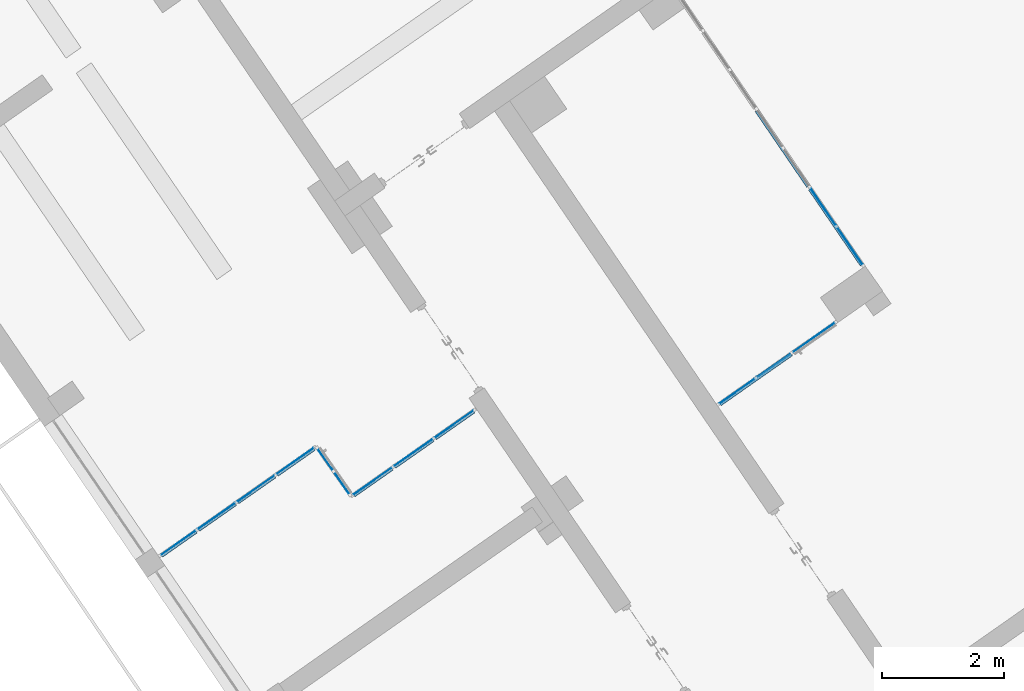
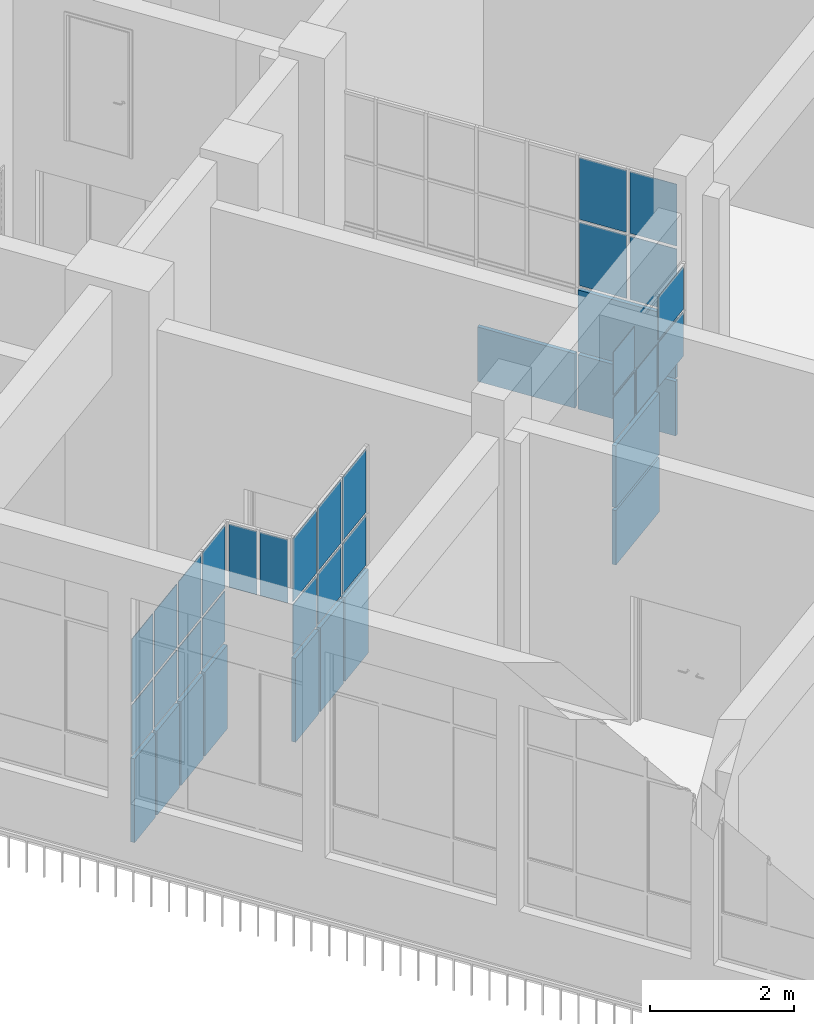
# One storey, part 49 of 157: 37 plates, 5 elements without a shape of their own.
"""IFC2X3 building model written with IfcOpenShell, lengths in millimetres."""

from ifc_helpers import new_model, entity, si_unit, converted_unit, derived_unit, direction, frame, frame_2d, origin, origin_2d_with_axis, place, context, subcontext, project, spatial, rectangle, extrude, source, transform, mapped, material, type_object, type_shapes, element, aggregate, save


model = new_model("IFC2X3")

# Units and contexts
model_context = context("Model", 3, precision=0.01, world=origin(), true_north=direction((6.123031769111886e-17, 1.0)))
body_context = subcontext(model_context, "Body", "Model", "MODEL_VIEW")
ifc_project = project(units=[si_unit("LENGTHUNIT", "METRE", prefix="MILLI"), si_unit("AREAUNIT", "SQUARE_METRE"), si_unit("VOLUMEUNIT", "CUBIC_METRE"), converted_unit("PLANEANGLEUNIT", "DEGREE", entity("IfcRatioMeasure", 0.017453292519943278), si_unit("PLANEANGLEUNIT", "RADIAN"), dimensions=[0, 0, 0, 0, 0, 0, 0]), si_unit("MASSUNIT", "GRAM", prefix="KILO"), derived_unit("MASSDENSITYUNIT", [(si_unit("MASSUNIT", "GRAM", prefix="KILO"), 1), (si_unit("LENGTHUNIT", "METRE"), -3)]), derived_unit("MOMENTOFINERTIAUNIT", [(si_unit("LENGTHUNIT", "METRE"), 4)]), si_unit("TIMEUNIT", "SECOND"), si_unit("FREQUENCYUNIT", "HERTZ"), si_unit("THERMODYNAMICTEMPERATUREUNIT", "DEGREE_CELSIUS"), derived_unit("THERMALTRANSMITTANCEUNIT", [(si_unit("MASSUNIT", "GRAM", prefix="KILO"), 1), (si_unit("THERMODYNAMICTEMPERATUREUNIT", "KELVIN"), -1), (si_unit("TIMEUNIT", "SECOND"), -3)]), derived_unit("THERMALCONDUCTANCEUNIT", [(si_unit("MASSUNIT", "GRAM", prefix="KILO"), 1), (si_unit("LENGTHUNIT", "METRE"), 1), (si_unit("THERMODYNAMICTEMPERATUREUNIT", "KELVIN"), -1), (si_unit("TIMEUNIT", "SECOND"), -3)]), derived_unit("VOLUMETRICFLOWRATEUNIT", [(si_unit("LENGTHUNIT", "METRE"), 3), (si_unit("TIMEUNIT", "SECOND"), -1)]), derived_unit("MASSFLOWRATEUNIT", [(si_unit("MASSUNIT", "GRAM", prefix="KILO"), 1), (si_unit("TIMEUNIT", "SECOND"), -1)]), derived_unit("ROTATIONALFREQUENCYUNIT", [(si_unit("TIMEUNIT", "SECOND"), -1)]), si_unit("ELECTRICCURRENTUNIT", "AMPERE"), si_unit("ELECTRICVOLTAGEUNIT", "VOLT"), si_unit("POWERUNIT", "WATT"), converted_unit("FORCEUNIT", "KIP", entity("IfcRatioMeasure", 2.088543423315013e-05), si_unit("FORCEUNIT", "NEWTON"), dimensions=[1, 1, -2, 0, 0, 0, 0]), si_unit("ILLUMINANCEUNIT", "LUX"), si_unit("LUMINOUSFLUXUNIT", "LUMEN"), si_unit("LUMINOUSINTENSITYUNIT", "CANDELA"), derived_unit("USERDEFINED", [(si_unit("MASSUNIT", "GRAM", prefix="KILO"), -1), (si_unit("LENGTHUNIT", "METRE"), -2), (si_unit("TIMEUNIT", "SECOND"), 3), (si_unit("LUMINOUSFLUXUNIT", "LUMEN"), 1)]), derived_unit("USERDEFINED", [(si_unit("MASSUNIT", "GRAM", prefix="KILO"), 1), (si_unit("LENGTHUNIT", "METRE"), 3), (si_unit("TIMEUNIT", "SECOND"), -3), (si_unit("ELECTRICCURRENTUNIT", "AMPERE"), -2)]), derived_unit("USERDEFINED", [(si_unit("LENGTHUNIT", "METRE"), 2), (si_unit("TIMEUNIT", "SECOND"), -2)]), derived_unit("SOUNDPOWERUNIT", [(si_unit("MASSUNIT", "GRAM", prefix="KILO"), 1), (si_unit("LENGTHUNIT", "METRE"), 2), (si_unit("TIMEUNIT", "SECOND"), -3)]), derived_unit("SOUNDPRESSUREUNIT", [(si_unit("MASSUNIT", "GRAM", prefix="KILO"), 1), (si_unit("LENGTHUNIT", "METRE"), -1), (si_unit("TIMEUNIT", "SECOND"), -2)]), derived_unit("LINEARVELOCITYUNIT", [(si_unit("LENGTHUNIT", "METRE"), 1), (si_unit("TIMEUNIT", "SECOND"), -1)]), si_unit("PRESSUREUNIT", "PASCAL"), derived_unit("USERDEFINED", [(si_unit("LENGTHUNIT", "METRE"), -2), (si_unit("MASSUNIT", "GRAM", prefix="KILO"), 1), (si_unit("TIMEUNIT", "SECOND"), -2)]), derived_unit("LINEARFORCEUNIT", [(si_unit("MASSUNIT", "GRAM", prefix="KILO"), 1), (si_unit("LENGTHUNIT", "METRE"), 1), (si_unit("TIMEUNIT", "SECOND"), -2), (si_unit("LENGTHUNIT", "METRE"), -1)]), derived_unit("PLANARFORCEUNIT", [(si_unit("MASSUNIT", "GRAM", prefix="KILO"), 1), (si_unit("LENGTHUNIT", "METRE"), 1), (si_unit("TIMEUNIT", "SECOND"), -2), (si_unit("LENGTHUNIT", "METRE"), -2)]), derived_unit("SPECIFICHEATCAPACITYUNIT", [(si_unit("LENGTHUNIT", "METRE"), 2), (si_unit("TIMEUNIT", "SECOND"), -2), (si_unit("THERMODYNAMICTEMPERATUREUNIT", "KELVIN"), -1)]), derived_unit("VAPORPERMEABILITYUNIT", [(si_unit("TIMEUNIT", "SECOND"), 1), (si_unit("LENGTHUNIT", "METRE"), -1)]), derived_unit("DYNAMICVISCOSITYUNIT", [(si_unit("MASSUNIT", "GRAM", prefix="KILO"), 1), (si_unit("LENGTHUNIT", "METRE"), -1), (si_unit("TIMEUNIT", "SECOND"), -1)]), derived_unit("THERMALEXPANSIONCOEFFICIENTUNIT", [(si_unit("THERMODYNAMICTEMPERATUREUNIT", "KELVIN"), -1)])], contexts=[model_context])

# Site, building, storey
site_placement = place(None, frame((0.0, 0.0, 0.0), z_axis=(0.0, 0.0, 1.0), x_axis=(0.8191520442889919, 0.5735764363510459, 0.0)))
site = spatial("IfcSite", under=ifc_project, at=site_placement, Name="Default", CompositionType="ELEMENT")
building_placement = place(site_placement, origin())
building = spatial("IfcBuilding", under=site, at=building_placement, CompositionType="ELEMENT")
storey_placement = place(building_placement, origin())
storey = spatial("IfcBuildingStorey", under=building, at=storey_placement, Name="1.EG +0.00", CompositionType="ELEMENT", Elevation=-4.331468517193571e-12)

# Curtain wall, plates
curtain_wall_type = type_object("IfcCurtainWallType", Name="Curtain Wall:Curtain_Wall_CJC_Int5", PredefinedType="NOTDEFINED")
curtain_wall_1_placement = place(storey_placement, origin())
curtain_wall_1 = element("IfcCurtainWall", 1, at=curtain_wall_1_placement, inside=storey, type_object=curtain_wall_type, Name="Curtain Wall:Curtain_Wall_CJC_Int5", ObjectType="Curtain Wall:Curtain_Wall_CJC_Int5")
ifc_material_1 = material(Name="Default")
plate_type_1 = type_object("IfcPlateType", Name="System Panel:Solid", PredefinedType="CURTAIN_PANEL", material=ifc_material_1)
shared_shape_1 = source(origin(), body_context, "Body", "SweptSolid", [
    extrude(rectangle(XDim=925.0000000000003, YDim=1507.2679333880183, at=frame_2d((0.0, -5.0799769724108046e-08), x_axis=(1.0, 0.0))), frame((5.078863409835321e-08, -19.049999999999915, 462.50000000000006), z_axis=(0.0, 1.0, 0.0), x_axis=(0.0, 0.0, 1.0)), (0.0, 0.0, 1.0), 63.5),
])
type_shapes(plate_type_1, [shared_shape_1])
plate_1_placement = place(curtain_wall_1_placement, frame((-209945.4109583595, 159049.92892178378, 50.0), z_axis=(0.0, 0.0, 1.0), x_axis=(0.012616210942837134, 0.9999204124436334, 0.0)))
plate_1 = element("IfcPlate", 2, at=plate_1_placement, type_object=plate_type_1, material=ifc_material_1, Name="System Panel:Solid", ObjectType="System Panel:Solid", context=body_context, shape_type="MappedRepresentation", body=[
    mapped(shared_shape_1, transform((0.0, 0.0, 0.0), scale=1.0)),
])
plate_2_placement = place(curtain_wall_1_placement, frame((-209925.7641376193, 160607.07291586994, 50.0), z_axis=(0.0, 0.0, 1.0), x_axis=(0.012616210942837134, 0.9999204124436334, 0.0)))
plate_2 = element("IfcPlate", 3, at=plate_2_placement, type_object=plate_type_1, material=ifc_material_1, Name="System Panel:Solid", ObjectType="System Panel:Solid", context=body_context, shape_type="MappedRepresentation", body=[
    mapped(shared_shape_1, transform((0.0, 0.0, 0.0), scale=1.0)),
])
plate_type_2 = type_object("IfcPlateType", Name="System Panel:Solid", PredefinedType="CURTAIN_PANEL", material=ifc_material_1)
shared_shape_2 = source(origin(), body_context, "Body", "SweptSolid", [
    extrude(rectangle(XDim=1049.9999999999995, YDim=1507.2679333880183, at=frame_2d((1.1368683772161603e-13, -5.0799769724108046e-08), x_axis=(1.0, 0.0))), frame((5.078863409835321e-08, -19.049999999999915, 525.0), z_axis=(0.0, 1.0, 0.0), x_axis=(0.0, 0.0, 1.0)), (0.0, 0.0, 1.0), 63.5),
])
type_shapes(plate_type_2, [shared_shape_2])
plate_3_placement = place(curtain_wall_1_placement, frame((-209945.4109583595, 159049.92892178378, 1025.0), z_axis=(0.0, 0.0, 1.0), x_axis=(0.012616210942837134, 0.9999204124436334, 0.0)))
plate_3 = element("IfcPlate", 4, at=plate_3_placement, type_object=plate_type_2, material=ifc_material_1, Name="System Panel:Solid", ObjectType="System Panel:Solid", context=body_context, shape_type="MappedRepresentation", body=[
    mapped(shared_shape_2, transform((0.0, 0.0, 0.0), scale=1.0)),
])
ifc_material_2 = material(Name="Glass")
plate_type_3 = type_object("IfcPlateType", Name="System Panel:Glazed_CJC", PredefinedType="CURTAIN_PANEL", material=ifc_material_2)
shared_shape_3 = source(origin(), body_context, "Body", "SweptSolid", [
    extrude(rectangle(XDim=10.0, YDim=728.6339668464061, at=frame_2d((0.0, 1.7905676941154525e-12), x_axis=(1.0, 0.0))), frame((0.0, 0.0, 0.0), z_axis=(0.0, 0.0, 1.0), x_axis=(0.0, 1.0, 0.0)), (0.0, 0.0, 1.0), 1075.0000000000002),
])
type_shapes(plate_type_3, [shared_shape_3])
plate_4_placement = place(curtain_wall_1_placement, frame((-209950.32266354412, 158660.64292330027, 2125.0), z_axis=(0.0, 0.0, 1.0), x_axis=(0.012616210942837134, 0.9999204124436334, 0.0)))
plate_4 = element("IfcPlate", 5, at=plate_4_placement, type_object=plate_type_3, material=ifc_material_2, Name="System Panel:Glazed_CJC", ObjectType="System Panel:Glazed_CJC", context=body_context, shape_type="MappedRepresentation", body=[
    mapped(shared_shape_3, transform((0.0, 0.0, 0.0), scale=1.0)),
])
plate_5_placement = place(curtain_wall_1_placement, frame((-209940.49925317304, 159439.21492041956, 2125.0), z_axis=(0.0, 0.0, 1.0), x_axis=(0.012616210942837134, 0.9999204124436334, 0.0)))
plate_5 = element("IfcPlate", 6, at=plate_5_placement, type_object=plate_type_3, material=ifc_material_2, Name="System Panel:Glazed_CJC", ObjectType="System Panel:Glazed_CJC", context=body_context, shape_type="MappedRepresentation", body=[
    mapped(shared_shape_3, transform((0.0, 0.0, 0.0), scale=1.0)),
])
plate_type_4 = type_object("IfcPlateType", Name="System Panel:Glazed_CJC", PredefinedType="CURTAIN_PANEL", material=ifc_material_2)
shared_shape_4 = source(origin(), body_context, "Body", "SweptSolid", [
    extrude(rectangle(XDim=10.0, YDim=728.6339668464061, at=frame_2d((0.0, 1.7905676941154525e-12), x_axis=(1.0, 0.0))), frame((0.0, 0.0, 0.0), z_axis=(0.0, 0.0, 1.0), x_axis=(0.0, 1.0, 0.0)), (0.0, 0.0, 1.0), 1050.0000000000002),
])
type_shapes(plate_type_4, [shared_shape_4])
plate_6_placement = place(curtain_wall_1_placement, frame((-209950.32266354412, 158660.64292330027, 3250.0), z_axis=(0.0, 0.0, 1.0), x_axis=(0.012616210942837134, 0.9999204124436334, 0.0)))
plate_6 = element("IfcPlate", 7, at=plate_6_placement, type_object=plate_type_4, material=ifc_material_2, Name="System Panel:Glazed_CJC", ObjectType="System Panel:Glazed_CJC", context=body_context, shape_type="MappedRepresentation", body=[
    mapped(shared_shape_4, transform((0.0, 0.0, 0.0), scale=1.0)),
])
plate_7_placement = place(curtain_wall_1_placement, frame((-209940.49925317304, 159439.21492041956, 3250.0), z_axis=(0.0, 0.0, 1.0), x_axis=(0.012616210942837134, 0.9999204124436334, 0.0)))
plate_7 = element("IfcPlate", 8, at=plate_7_placement, type_object=plate_type_4, material=ifc_material_2, Name="System Panel:Glazed_CJC", ObjectType="System Panel:Glazed_CJC", context=body_context, shape_type="MappedRepresentation", body=[
    mapped(shared_shape_4, transform((0.0, 0.0, 0.0), scale=1.0)),
])
aggregate(curtain_wall_1, [plate_1, plate_2, plate_3, plate_4, plate_5, plate_6, plate_7])

curtain_wall_2_placement = place(storey_placement, origin())
curtain_wall_2 = element("IfcCurtainWall", 9, at=curtain_wall_2_placement, inside=storey, type_object=curtain_wall_type, Name="Curtain Wall:Curtain_Wall_CJC_Int5", ObjectType="Curtain Wall:Curtain_Wall_CJC_Int5")
plate_type_5 = type_object("IfcPlateType", Name="System Panel:Solid", PredefinedType="CURTAIN_PANEL", material=ifc_material_1)
shared_shape_5 = source(origin(), body_context, "Body", "SweptSolid", [
    extrude(rectangle(XDim=925.0000000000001, YDim=1428.107482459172, at=frame_2d((0.0, 3.9940287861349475), x_axis=(1.0, 0.0))), frame((-3.994028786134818, -19.05, 462.50000000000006), z_axis=(0.0, 1.0, 0.0), x_axis=(0.0, 0.0, 1.0)), (0.0, 0.0, 1.0), 63.5),
])
type_shapes(plate_type_5, [shared_shape_5])
plate_8_placement = place(curtain_wall_2_placement, frame((-212472.8501703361, 157771.3589143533, 50.0), z_axis=(0.0, 0.0, 1.0), x_axis=(-1.0, 0.0, 0.0)))
plate_8 = element("IfcPlate", 10, at=plate_8_placement, type_object=plate_type_5, material=ifc_material_1, Name="System Panel:Solid", ObjectType="System Panel:Solid", context=body_context, shape_type="MappedRepresentation", body=[
    mapped(shared_shape_5, transform((0.0, 0.0, 0.0), scale=1.0)),
])
plate_type_6 = type_object("IfcPlateType", Name="System Panel:Solid", PredefinedType="CURTAIN_PANEL", material=ifc_material_1)
shared_shape_6 = source(origin(), body_context, "Body", "SweptSolid", [
    extrude(rectangle(XDim=1049.9999999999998, YDim=1428.107482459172, at=frame_2d((0.0, 3.994028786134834), x_axis=(1.0, 0.0))), frame((-3.9940287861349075, -19.05, 525.0), z_axis=(0.0, 1.0, 0.0), x_axis=(0.0, 0.0, 1.0)), (0.0, 0.0, 1.0), 63.5),
])
type_shapes(plate_type_6, [shared_shape_6])
plate_9_placement = place(curtain_wall_2_placement, frame((-212472.8501703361, 157771.3589143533, 1025.0), z_axis=(0.0, 0.0, 1.0), x_axis=(-1.0, 0.0, 0.0)))
plate_9 = element("IfcPlate", 11, at=plate_9_placement, type_object=plate_type_6, material=ifc_material_1, Name="System Panel:Solid", ObjectType="System Panel:Solid", context=body_context, shape_type="MappedRepresentation", body=[
    mapped(shared_shape_6, transform((0.0, 0.0, 0.0), scale=1.0)),
])
plate_type_7 = type_object("IfcPlateType", Name="System Panel:Glazed_CJC", PredefinedType="CURTAIN_PANEL", material=ifc_material_2)
shared_shape_7 = source(origin(), body_context, "Body", "SweptSolid", [
    extrude(rectangle(XDim=10.0, YDim=825.0000000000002, at=origin_2d_with_axis()), frame((0.0, 0.0, 0.0), z_axis=(0.0, 0.0, 1.0), x_axis=(0.0, 1.0, 0.0)), (0.0, 0.0, 1.0), 750.0000000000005),
])
type_shapes(plate_type_7, [shared_shape_7])
plate_10_placement = place(curtain_wall_2_placement, frame((-211296.2964291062, 157771.3589143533, 2125.0), z_axis=(0.0, 0.0, 1.0), x_axis=(-1.0, 0.0, 0.0)))
plate_10 = element("IfcPlate", 12, at=plate_10_placement, type_object=plate_type_7, material=ifc_material_2, Name="System Panel:Glazed_CJC", ObjectType="System Panel:Glazed_CJC", context=body_context, shape_type="MappedRepresentation", body=[
    mapped(shared_shape_7, transform((0.0, 0.0, 0.0), scale=1.0)),
])
plate_type_8 = type_object("IfcPlateType", Name="System Panel:Glazed_CJC", PredefinedType="CURTAIN_PANEL", material=ifc_material_2)
shared_shape_8 = source(origin(), body_context, "Body", "SweptSolid", [
    extrude(rectangle(XDim=10.0, YDim=677.0716548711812, at=origin_2d_with_axis()), frame((0.0, 0.0, 0.0), z_axis=(0.0, 0.0, 1.0), x_axis=(0.0, 1.0, 0.0)), (0.0, 0.0, 1.0), 750.0000000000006),
])
type_shapes(plate_type_8, [shared_shape_8])
plate_11_placement = place(curtain_wall_2_placement, frame((-212097.332256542, 157771.3589143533, 2125.0), z_axis=(0.0, 0.0, 1.0), x_axis=(-1.0, 0.0, 0.0)))
plate_11 = element("IfcPlate", 13, at=plate_11_placement, type_object=plate_type_8, material=ifc_material_2, Name="System Panel:Glazed_CJC", ObjectType="System Panel:Glazed_CJC", context=body_context, shape_type="MappedRepresentation", body=[
    mapped(shared_shape_8, transform((0.0, 0.0, 0.0), scale=1.0)),
])
plate_type_9 = type_object("IfcPlateType", Name="System Panel:Glazed_CJC", PredefinedType="CURTAIN_PANEL", material=ifc_material_2)
shared_shape_9 = source(origin(), body_context, "Body", "SweptSolid", [
    extrude(rectangle(XDim=10.0, YDim=701.0358275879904, at=origin_2d_with_axis()), frame((0.0, 0.0, 0.0), z_axis=(0.0, 0.0, 1.0), x_axis=(0.0, 1.0, 0.0)), (0.0, 0.0, 1.0), 750.0000000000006),
])
type_shapes(plate_type_9, [shared_shape_9])
plate_12_placement = place(curtain_wall_2_placement, frame((-212836.3859977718, 157771.3589143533, 2125.0), z_axis=(0.0, 0.0, 1.0), x_axis=(-1.0, 0.0, 0.0)))
plate_12 = element("IfcPlate", 14, at=plate_12_placement, type_object=plate_type_9, material=ifc_material_2, Name="System Panel:Glazed_CJC", ObjectType="System Panel:Glazed_CJC", context=body_context, shape_type="MappedRepresentation", body=[
    mapped(shared_shape_9, transform((0.0, 0.0, 0.0), scale=1.0)),
])
plate_type_10 = type_object("IfcPlateType", Name="System Panel:Glazed_CJC", PredefinedType="CURTAIN_PANEL", material=ifc_material_2)
shared_shape_10 = source(origin(), body_context, "Body", "SweptSolid", [
    extrude(rectangle(XDim=10.0, YDim=825.0000000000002, at=origin_2d_with_axis()), frame((0.0, 0.0, 0.0), z_axis=(0.0, 0.0, 1.0), x_axis=(0.0, 1.0, 0.0)), (0.0, 0.0, 1.0), 725.0000000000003),
])
type_shapes(plate_type_10, [shared_shape_10])
plate_13_placement = place(curtain_wall_2_placement, frame((-211296.2964291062, 157771.3589143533, 2925.0), z_axis=(0.0, 0.0, 1.0), x_axis=(-1.0, 0.0, 0.0)))
plate_13 = element("IfcPlate", 15, at=plate_13_placement, type_object=plate_type_10, material=ifc_material_2, Name="System Panel:Glazed_CJC", ObjectType="System Panel:Glazed_CJC", context=body_context, shape_type="MappedRepresentation", body=[
    mapped(shared_shape_10, transform((0.0, 0.0, 0.0), scale=1.0)),
])
plate_type_11 = type_object("IfcPlateType", Name="System Panel:Glazed_CJC", PredefinedType="CURTAIN_PANEL", material=ifc_material_2)
shared_shape_11 = source(origin(), body_context, "Body", "SweptSolid", [
    extrude(rectangle(XDim=10.0, YDim=701.0358275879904, at=origin_2d_with_axis()), frame((0.0, 0.0, 0.0), z_axis=(0.0, 0.0, 1.0), x_axis=(0.0, 1.0, 0.0)), (0.0, 0.0, 1.0), 725.0000000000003),
])
type_shapes(plate_type_11, [shared_shape_11])
plate_14_placement = place(curtain_wall_2_placement, frame((-212836.3859977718, 157771.3589143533, 2925.0), z_axis=(0.0, 0.0, 1.0), x_axis=(-1.0, 0.0, 0.0)))
plate_14 = element("IfcPlate", 16, at=plate_14_placement, type_object=plate_type_11, material=ifc_material_2, Name="System Panel:Glazed_CJC", ObjectType="System Panel:Glazed_CJC", context=body_context, shape_type="MappedRepresentation", body=[
    mapped(shared_shape_11, transform((0.0, 0.0, 0.0), scale=1.0)),
])
aggregate(curtain_wall_2, [plate_8, plate_9, plate_10, plate_11, plate_12, plate_13, plate_14])

curtain_wall_3_placement = place(storey_placement, origin())
curtain_wall_3 = element("IfcCurtainWall", 17, at=curtain_wall_3_placement, inside=storey, type_object=curtain_wall_type, Name="Curtain Wall:Curtain_Wall_CJC_Int5", ObjectType="Curtain Wall:Curtain_Wall_CJC_Int5")
plate_type_12 = type_object("IfcPlateType", Name="System Panel:Solid", PredefinedType="CURTAIN_PANEL", material=ifc_material_1)
shared_shape_12 = source(origin(), body_context, "Body", "SweptSolid", [
    extrude(rectangle(XDim=63.5, YDim=766.6666667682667, at=origin_2d_with_axis()), frame((0.0, 12.699999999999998, 0.0), z_axis=(0.0, 0.0, 1.0), x_axis=(0.0, 1.0, 0.0)), (0.0, 0.0, 1.0), 1425.0),
])
type_shapes(plate_type_12, [shared_shape_12])
plate_15_placement = place(curtain_wall_3_placement, frame((-216952.2516933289, 159994.0786543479, 50.0), z_axis=(0.0, 0.0, 1.0), x_axis=(-1.0, 0.0, 0.0)))
plate_15 = element("IfcPlate", 18, at=plate_15_placement, type_object=plate_type_12, material=ifc_material_1, Name="System Panel:Solid", ObjectType="System Panel:Solid", context=body_context, shape_type="MappedRepresentation", body=[
    mapped(shared_shape_12, transform((0.0, 0.0, 0.0), scale=1.0)),
])
plate_16_placement = place(curtain_wall_3_placement, frame((-217768.91835994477, 159994.0786543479, 50.0), z_axis=(0.0, 0.0, 1.0), x_axis=(-1.0, 0.0, 0.0)))
plate_16 = element("IfcPlate", 19, at=plate_16_placement, type_object=plate_type_12, material=ifc_material_1, Name="System Panel:Solid", ObjectType="System Panel:Solid", context=body_context, shape_type="MappedRepresentation", body=[
    mapped(shared_shape_12, transform((0.0, 0.0, 0.0), scale=1.0)),
])
plate_17_placement = place(curtain_wall_3_placement, frame((-218585.5850265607, 159994.0786543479, 50.0), z_axis=(0.0, 0.0, 1.0), x_axis=(-1.0, 0.0, 0.0)))
plate_17 = element("IfcPlate", 20, at=plate_17_placement, type_object=plate_type_12, material=ifc_material_1, Name="System Panel:Solid", ObjectType="System Panel:Solid", context=body_context, shape_type="MappedRepresentation", body=[
    mapped(shared_shape_12, transform((0.0, 0.0, 0.0), scale=1.0)),
])
plate_type_13 = type_object("IfcPlateType", Name="System Panel:Glazed_CJC", PredefinedType="CURTAIN_PANEL", material=ifc_material_2)
shared_shape_13 = source(origin(), body_context, "Body", "SweptSolid", [
    extrude(rectangle(XDim=10.0, YDim=766.6666667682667, at=origin_2d_with_axis()), frame((0.0, 0.0, 0.0), z_axis=(0.0, 0.0, 1.0), x_axis=(0.0, 1.0, 0.0)), (0.0, 0.0, 1.0), 849.9999999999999),
])
type_shapes(plate_type_13, [shared_shape_13])
plate_18_placement = place(curtain_wall_3_placement, frame((-216952.2516933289, 159994.0786543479, 1525.0), z_axis=(0.0, 0.0, 1.0), x_axis=(-1.0, 0.0, 0.0)))
plate_18 = element("IfcPlate", 21, at=plate_18_placement, type_object=plate_type_13, material=ifc_material_2, Name="System Panel:Glazed_CJC", ObjectType="System Panel:Glazed_CJC", context=body_context, shape_type="MappedRepresentation", body=[
    mapped(shared_shape_13, transform((0.0, 0.0, 0.0), scale=1.0)),
])
plate_19_placement = place(curtain_wall_3_placement, frame((-217768.91835994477, 159994.0786543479, 1525.0), z_axis=(0.0, 0.0, 1.0), x_axis=(-1.0, 0.0, 0.0)))
plate_19 = element("IfcPlate", 22, at=plate_19_placement, type_object=plate_type_13, material=ifc_material_2, Name="System Panel:Glazed_CJC", ObjectType="System Panel:Glazed_CJC", context=body_context, shape_type="MappedRepresentation", body=[
    mapped(shared_shape_13, transform((0.0, 0.0, 0.0), scale=1.0)),
])
plate_20_placement = place(curtain_wall_3_placement, frame((-218585.5850265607, 159994.0786543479, 1525.0), z_axis=(0.0, 0.0, 1.0), x_axis=(-1.0, 0.0, 0.0)))
plate_20 = element("IfcPlate", 23, at=plate_20_placement, type_object=plate_type_13, material=ifc_material_2, Name="System Panel:Glazed_CJC", ObjectType="System Panel:Glazed_CJC", context=body_context, shape_type="MappedRepresentation", body=[
    mapped(shared_shape_13, transform((0.0, 0.0, 0.0), scale=1.0)),
])
plate_type_14 = type_object("IfcPlateType", Name="System Panel:Glazed_CJC", PredefinedType="CURTAIN_PANEL", material=ifc_material_2)
shared_shape_14 = source(origin(), body_context, "Body", "SweptSolid", [
    extrude(rectangle(XDim=10.0, YDim=766.6666667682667, at=origin_2d_with_axis()), frame((0.0, 0.0, 0.0), z_axis=(0.0, 0.0, 1.0), x_axis=(0.0, 1.0, 0.0)), (0.0, 0.0, 1.0), 1075.0000000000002),
])
type_shapes(plate_type_14, [shared_shape_14])
plate_21_placement = place(curtain_wall_3_placement, frame((-216952.2516933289, 159994.0786543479, 2425.0), z_axis=(0.0, 0.0, 1.0), x_axis=(-1.0, 0.0, 0.0)))
plate_21 = element("IfcPlate", 24, at=plate_21_placement, type_object=plate_type_14, material=ifc_material_2, Name="System Panel:Glazed_CJC", ObjectType="System Panel:Glazed_CJC", context=body_context, shape_type="MappedRepresentation", body=[
    mapped(shared_shape_14, transform((0.0, 0.0, 0.0), scale=1.0)),
])
plate_22_placement = place(curtain_wall_3_placement, frame((-217768.91835994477, 159994.0786543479, 2425.0), z_axis=(0.0, 0.0, 1.0), x_axis=(-1.0, 0.0, 0.0)))
plate_22 = element("IfcPlate", 25, at=plate_22_placement, type_object=plate_type_14, material=ifc_material_2, Name="System Panel:Glazed_CJC", ObjectType="System Panel:Glazed_CJC", context=body_context, shape_type="MappedRepresentation", body=[
    mapped(shared_shape_14, transform((0.0, 0.0, 0.0), scale=1.0)),
])
plate_23_placement = place(curtain_wall_3_placement, frame((-218585.5850265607, 159994.0786543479, 2425.0), z_axis=(0.0, 0.0, 1.0), x_axis=(-1.0, 0.0, 0.0)))
plate_23 = element("IfcPlate", 26, at=plate_23_placement, type_object=plate_type_14, material=ifc_material_2, Name="System Panel:Glazed_CJC", ObjectType="System Panel:Glazed_CJC", context=body_context, shape_type="MappedRepresentation", body=[
    mapped(shared_shape_14, transform((0.0, 0.0, 0.0), scale=1.0)),
])
aggregate(curtain_wall_3, [plate_15, plate_16, plate_17, plate_18, plate_19, plate_20, plate_21, plate_22, plate_23])

curtain_wall_4_placement = place(storey_placement, origin())
curtain_wall_4 = element("IfcCurtainWall", 27, at=curtain_wall_4_placement, inside=storey, type_object=curtain_wall_type, Name="Curtain Wall:Curtain_Wall_CJC_Int5", ObjectType="Curtain Wall:Curtain_Wall_CJC_Int5")
plate_type_15 = type_object("IfcPlateType", Name="System Panel:Glazed_CJC", PredefinedType="CURTAIN_PANEL", material=ifc_material_2)
shared_shape_15 = source(origin(), body_context, "Body", "SweptSolid", [
    extrude(rectangle(XDim=10.0, YDim=424.99999999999, at=origin_2d_with_axis()), frame((0.0, 0.0, 0.0), z_axis=(0.0, 0.0, 1.0), x_axis=(0.0, 1.0, 0.0)), (0.0, 0.0, 1.0), 1075.0000000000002),
])
type_shapes(plate_type_15, [shared_shape_15])
plate_24_placement = place(curtain_wall_4_placement, frame((-219018.91835994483, 160256.5786543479, 2425.0), z_axis=(0.0, 0.0, 1.0), x_axis=(0.0, 1.0, 0.0)))
plate_24 = element("IfcPlate", 28, at=plate_24_placement, type_object=plate_type_15, material=ifc_material_2, Name="System Panel:Glazed_CJC", ObjectType="System Panel:Glazed_CJC", context=body_context, shape_type="MappedRepresentation", body=[
    mapped(shared_shape_15, transform((0.0, 0.0, 0.0), scale=1.0)),
])
plate_25_placement = place(curtain_wall_4_placement, frame((-219018.91835994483, 160731.57865434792, 2425.0), z_axis=(0.0, 0.0, 1.0), x_axis=(0.0, 1.0, 0.0)))
plate_25 = element("IfcPlate", 29, at=plate_25_placement, type_object=plate_type_15, material=ifc_material_2, Name="System Panel:Glazed_CJC", ObjectType="System Panel:Glazed_CJC", context=body_context, shape_type="MappedRepresentation", body=[
    mapped(shared_shape_15, transform((0.0, 0.0, 0.0), scale=1.0)),
])
aggregate(curtain_wall_4, [plate_24, plate_25])

curtain_wall_5_placement = place(storey_placement, origin())
curtain_wall_5 = element("IfcCurtainWall", 30, at=curtain_wall_5_placement, inside=storey, type_object=curtain_wall_type, Name="Curtain Wall:Curtain_Wall_CJC_Int5", ObjectType="Curtain Wall:Curtain_Wall_CJC_Int5")
plate_type_16 = type_object("IfcPlateType", Name="System Panel:Solid", PredefinedType="CURTAIN_PANEL", material=ifc_material_1)
shared_shape_16 = source(origin(), body_context, "Body", "SweptSolid", [
    extrude(rectangle(XDim=63.5, YDim=738.2459099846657, at=origin_2d_with_axis()), frame((0.0, 12.699999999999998, 0.0), z_axis=(0.0, 0.0, 1.0), x_axis=(0.0, 1.0, 0.0)), (0.0, 0.0, 1.0), 1425.0),
])
type_shapes(plate_type_16, [shared_shape_16])
plate_26_placement = place(curtain_wall_5_placement, frame((-219438.04131493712, 160994.07865434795, 50.0), z_axis=(0.0, 0.0, 1.0), x_axis=(-1.0, 0.0, 0.0)))
plate_26 = element("IfcPlate", 31, at=plate_26_placement, type_object=plate_type_16, material=ifc_material_1, Name="System Panel:Solid", ObjectType="System Panel:Solid", context=body_context, shape_type="MappedRepresentation", body=[
    mapped(shared_shape_16, transform((0.0, 0.0, 0.0), scale=1.0)),
])
plate_27_placement = place(curtain_wall_5_placement, frame((-220226.28722476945, 160994.07865434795, 50.0), z_axis=(0.0, 0.0, 1.0), x_axis=(-1.0, 0.0, 0.0)))
plate_27 = element("IfcPlate", 32, at=plate_27_placement, type_object=plate_type_16, material=ifc_material_1, Name="System Panel:Solid", ObjectType="System Panel:Solid", context=body_context, shape_type="MappedRepresentation", body=[
    mapped(shared_shape_16, transform((0.0, 0.0, 0.0), scale=1.0)),
])
plate_28_placement = place(curtain_wall_5_placement, frame((-221014.5331344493, 160994.07865434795, 50.0), z_axis=(0.0, 0.0, 1.0), x_axis=(-1.0, 0.0, 0.0)))
plate_28 = element("IfcPlate", 33, at=plate_28_placement, type_object=plate_type_16, material=ifc_material_1, Name="System Panel:Solid", ObjectType="System Panel:Solid", context=body_context, shape_type="MappedRepresentation", body=[
    mapped(shared_shape_16, transform((0.0, 0.0, 0.0), scale=1.0)),
])
plate_type_17 = type_object("IfcPlateType", Name="System Panel:Solid", PredefinedType="CURTAIN_PANEL", material=ifc_material_1)
shared_shape_17 = source(origin(), body_context, "Body", "SweptSolid", [
    extrude(rectangle(XDim=63.5, YDim=688.245909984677, at=origin_2d_with_axis()), frame((0.0, 12.699999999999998, 0.0), z_axis=(0.0, 0.0, 1.0), x_axis=(0.0, 1.0, 0.0)), (0.0, 0.0, 1.0), 1425.0),
])
type_shapes(plate_type_17, [shared_shape_17])
plate_29_placement = place(curtain_wall_5_placement, frame((-221777.7790442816, 160994.07865434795, 50.0), z_axis=(0.0, 0.0, 1.0), x_axis=(-1.0, 0.0, 0.0)))
plate_29 = element("IfcPlate", 34, at=plate_29_placement, type_object=plate_type_17, material=ifc_material_1, Name="System Panel:Solid", ObjectType="System Panel:Solid", context=body_context, shape_type="MappedRepresentation", body=[
    mapped(shared_shape_17, transform((0.0, 0.0, 0.0), scale=1.0)),
])
plate_type_18 = type_object("IfcPlateType", Name="System Panel:Glazed_CJC", PredefinedType="CURTAIN_PANEL", material=ifc_material_2)
shared_shape_18 = source(origin(), body_context, "Body", "SweptSolid", [
    extrude(rectangle(XDim=10.0, YDim=738.2459099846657, at=origin_2d_with_axis()), frame((0.0, 0.0, 0.0), z_axis=(0.0, 0.0, 1.0), x_axis=(0.0, 1.0, 0.0)), (0.0, 0.0, 1.0), 849.9999999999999),
])
type_shapes(plate_type_18, [shared_shape_18])
plate_30_placement = place(curtain_wall_5_placement, frame((-219438.04131493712, 160994.07865434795, 1525.0), z_axis=(0.0, 0.0, 1.0), x_axis=(-1.0, 0.0, 0.0)))
plate_30 = element("IfcPlate", 35, at=plate_30_placement, type_object=plate_type_18, material=ifc_material_2, Name="System Panel:Glazed_CJC", ObjectType="System Panel:Glazed_CJC", context=body_context, shape_type="MappedRepresentation", body=[
    mapped(shared_shape_18, transform((0.0, 0.0, 0.0), scale=1.0)),
])
plate_31_placement = place(curtain_wall_5_placement, frame((-220226.28722476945, 160994.07865434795, 1525.0), z_axis=(0.0, 0.0, 1.0), x_axis=(-1.0, 0.0, 0.0)))
plate_31 = element("IfcPlate", 36, at=plate_31_placement, type_object=plate_type_18, material=ifc_material_2, Name="System Panel:Glazed_CJC", ObjectType="System Panel:Glazed_CJC", context=body_context, shape_type="MappedRepresentation", body=[
    mapped(shared_shape_18, transform((0.0, 0.0, 0.0), scale=1.0)),
])
plate_32_placement = place(curtain_wall_5_placement, frame((-221014.5331344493, 160994.07865434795, 1525.0), z_axis=(0.0, 0.0, 1.0), x_axis=(-1.0, 0.0, 0.0)))
plate_32 = element("IfcPlate", 37, at=plate_32_placement, type_object=plate_type_18, material=ifc_material_2, Name="System Panel:Glazed_CJC", ObjectType="System Panel:Glazed_CJC", context=body_context, shape_type="MappedRepresentation", body=[
    mapped(shared_shape_18, transform((0.0, 0.0, 0.0), scale=1.0)),
])
plate_type_19 = type_object("IfcPlateType", Name="System Panel:Glazed_CJC", PredefinedType="CURTAIN_PANEL", material=ifc_material_2)
shared_shape_19 = source(origin(), body_context, "Body", "SweptSolid", [
    extrude(rectangle(XDim=10.0, YDim=688.245909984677, at=origin_2d_with_axis()), frame((0.0, 0.0, 0.0), z_axis=(0.0, 0.0, 1.0), x_axis=(0.0, 1.0, 0.0)), (0.0, 0.0, 1.0), 850.0),
])
type_shapes(plate_type_19, [shared_shape_19])
plate_33_placement = place(curtain_wall_5_placement, frame((-221777.7790442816, 160994.07865434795, 1525.0), z_axis=(0.0, 0.0, 1.0), x_axis=(-1.0, 0.0, 0.0)))
plate_33 = element("IfcPlate", 38, at=plate_33_placement, type_object=plate_type_19, material=ifc_material_2, Name="System Panel:Glazed_CJC", ObjectType="System Panel:Glazed_CJC", context=body_context, shape_type="MappedRepresentation", body=[
    mapped(shared_shape_19, transform((0.0, 0.0, 0.0), scale=1.0)),
])
plate_type_20 = type_object("IfcPlateType", Name="System Panel:Glazed_CJC", PredefinedType="CURTAIN_PANEL", material=ifc_material_2)
shared_shape_20 = source(origin(), body_context, "Body", "SweptSolid", [
    extrude(rectangle(XDim=10.0, YDim=738.2459099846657, at=origin_2d_with_axis()), frame((0.0, 0.0, 0.0), z_axis=(0.0, 0.0, 1.0), x_axis=(0.0, 1.0, 0.0)), (0.0, 0.0, 1.0), 1075.0000000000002),
])
type_shapes(plate_type_20, [shared_shape_20])
plate_34_placement = place(curtain_wall_5_placement, frame((-219438.04131493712, 160994.07865434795, 2425.0), z_axis=(0.0, 0.0, 1.0), x_axis=(-1.0, 0.0, 0.0)))
plate_34 = element("IfcPlate", 39, at=plate_34_placement, type_object=plate_type_20, material=ifc_material_2, Name="System Panel:Glazed_CJC", ObjectType="System Panel:Glazed_CJC", context=body_context, shape_type="MappedRepresentation", body=[
    mapped(shared_shape_20, transform((0.0, 0.0, 0.0), scale=1.0)),
])
plate_35_placement = place(curtain_wall_5_placement, frame((-220226.28722476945, 160994.07865434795, 2425.0), z_axis=(0.0, 0.0, 1.0), x_axis=(-1.0, 0.0, 0.0)))
plate_35 = element("IfcPlate", 40, at=plate_35_placement, type_object=plate_type_20, material=ifc_material_2, Name="System Panel:Glazed_CJC", ObjectType="System Panel:Glazed_CJC", context=body_context, shape_type="MappedRepresentation", body=[
    mapped(shared_shape_20, transform((0.0, 0.0, 0.0), scale=1.0)),
])
plate_36_placement = place(curtain_wall_5_placement, frame((-221014.5331344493, 160994.07865434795, 2425.0), z_axis=(0.0, 0.0, 1.0), x_axis=(-1.0, 0.0, 0.0)))
plate_36 = element("IfcPlate", 41, at=plate_36_placement, type_object=plate_type_20, material=ifc_material_2, Name="System Panel:Glazed_CJC", ObjectType="System Panel:Glazed_CJC", context=body_context, shape_type="MappedRepresentation", body=[
    mapped(shared_shape_20, transform((0.0, 0.0, 0.0), scale=1.0)),
])
plate_type_21 = type_object("IfcPlateType", Name="System Panel:Glazed_CJC", PredefinedType="CURTAIN_PANEL", material=ifc_material_2)
shared_shape_21 = source(origin(), body_context, "Body", "SweptSolid", [
    extrude(rectangle(XDim=10.0, YDim=688.245909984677, at=origin_2d_with_axis()), frame((0.0, 0.0, 0.0), z_axis=(0.0, 0.0, 1.0), x_axis=(0.0, 1.0, 0.0)), (0.0, 0.0, 1.0), 1075.0000000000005),
])
type_shapes(plate_type_21, [shared_shape_21])
plate_37_placement = place(curtain_wall_5_placement, frame((-221777.7790442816, 160994.07865434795, 2425.0), z_axis=(0.0, 0.0, 1.0), x_axis=(-1.0, 0.0, 0.0)))
plate_37 = element("IfcPlate", 42, at=plate_37_placement, type_object=plate_type_21, material=ifc_material_2, Name="System Panel:Glazed_CJC", ObjectType="System Panel:Glazed_CJC", context=body_context, shape_type="MappedRepresentation", body=[
    mapped(shared_shape_21, transform((0.0, 0.0, 0.0), scale=1.0)),
])
aggregate(curtain_wall_5, [plate_26, plate_27, plate_28, plate_29, plate_30, plate_31, plate_32, plate_33, plate_34, plate_35, plate_36, plate_37])

save(model, "model.ifc")
